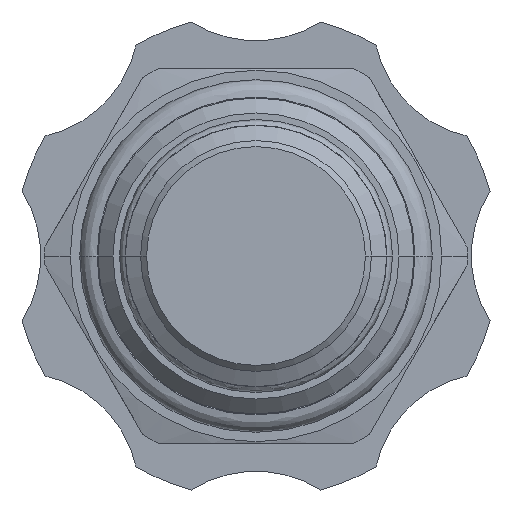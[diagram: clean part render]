
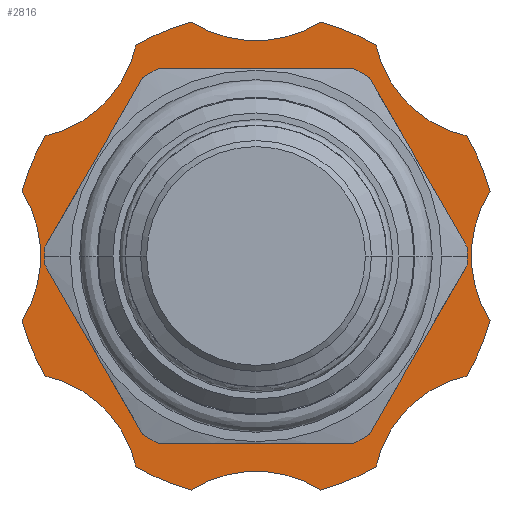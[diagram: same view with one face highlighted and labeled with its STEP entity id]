
A CAD part, front view. The second image highlights one B-rep face of the part: STEP entity #2816.
In plain terms, the highlighted planar face has unit normal (0, -1, 0).
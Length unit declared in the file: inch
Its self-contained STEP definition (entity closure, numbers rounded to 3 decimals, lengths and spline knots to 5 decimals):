
#95=CARTESIAN_POINT('',(0.,1.37633,0.));
#96=DIRECTION('',(0.,-1.,0.));
#97=DIRECTION('',(-0.964,0.,-0.266));
#98=AXIS2_PLACEMENT_3D('',#95,#96,#97);
#104=CARTESIAN_POINT('',(-0.79055,1.37633,-0.79055));
#105=DIRECTION('',(0.,1.,0.));
#106=DIRECTION('',(0.215,0.,0.977));
#107=AXIS2_PLACEMENT_3D('',#104,#105,#106);
#109=CARTESIAN_POINT('',(-1.118,1.37633,0.));
#110=DIRECTION('',(0.,1.,0.));
#111=DIRECTION('',(0.843,0.,0.538));
#112=AXIS2_PLACEMENT_3D('',#109,#110,#111);
#114=CARTESIAN_POINT('',(-0.79055,1.37633,0.79055));
#115=DIRECTION('',(0.,1.,0.));
#116=DIRECTION('',(0.977,0.,-0.215));
#117=AXIS2_PLACEMENT_3D('',#114,#115,#116);
#119=CARTESIAN_POINT('',(0.79055,1.37633,0.79055));
#120=DIRECTION('',(0.,1.,0.));
#121=DIRECTION('',(-0.215,0.,-0.977));
#122=AXIS2_PLACEMENT_3D('',#119,#120,#121);
#124=CARTESIAN_POINT('',(1.118,1.37633,0.));
#125=DIRECTION('',(0.,1.,0.));
#126=DIRECTION('',(-0.843,0.,-0.538));
#127=AXIS2_PLACEMENT_3D('',#124,#125,#126);
#129=CARTESIAN_POINT('',(0.79055,1.37633,-0.79055));
#130=DIRECTION('',(0.,1.,0.));
#131=DIRECTION('',(-0.977,0.,0.215));
#132=AXIS2_PLACEMENT_3D('',#129,#130,#131);
#134=CARTESIAN_POINT('',(0.,1.37633,-1.118));
#135=DIRECTION('',(0.,1.,0.));
#136=DIRECTION('',(-0.538,0.,0.843));
#137=AXIS2_PLACEMENT_3D('',#134,#135,#136);
#193=CARTESIAN_POINT('',(0.,1.37633,0.));
#194=DIRECTION('',(0.,-1.,0.));
#195=DIRECTION('',(0.266,0.,-0.964));
#196=AXIS2_PLACEMENT_3D('',#193,#194,#195);
#256=CARTESIAN_POINT('',(0.,1.37633,0.));
#257=DIRECTION('',(0.,-1.,0.));
#258=DIRECTION('',(0.87,0.,-0.494));
#259=AXIS2_PLACEMENT_3D('',#256,#257,#258);
#319=CARTESIAN_POINT('',(0.,1.37633,0.));
#320=DIRECTION('',(0.,-1.,0.));
#321=DIRECTION('',(0.964,0.,0.266));
#322=AXIS2_PLACEMENT_3D('',#319,#320,#321);
#382=CARTESIAN_POINT('',(0.,1.37633,0.));
#383=DIRECTION('',(0.,-1.,0.));
#384=DIRECTION('',(0.494,0.,0.87));
#385=AXIS2_PLACEMENT_3D('',#382,#383,#384);
#391=CARTESIAN_POINT('',(0.,1.37633,1.118));
#392=DIRECTION('',(0.,1.,0.));
#393=DIRECTION('',(0.538,0.,-0.843));
#394=AXIS2_PLACEMENT_3D('',#391,#392,#393);
#450=CARTESIAN_POINT('',(0.,1.37633,0.));
#451=DIRECTION('',(0.,-1.,0.));
#452=DIRECTION('',(-0.266,0.,0.964));
#453=AXIS2_PLACEMENT_3D('',#450,#451,#452);
#513=CARTESIAN_POINT('',(0.,1.37633,0.));
#514=DIRECTION('',(0.,-1.,0.));
#515=DIRECTION('',(-0.87,0.,0.494));
#516=AXIS2_PLACEMENT_3D('',#513,#514,#515);
#536=CARTESIAN_POINT('',(0.,1.37633,0.));
#537=DIRECTION('',(0.,-1.,0.));
#538=DIRECTION('',(-0.494,0.,-0.87));
#539=AXIS2_PLACEMENT_3D('',#536,#537,#538);
#549=CARTESIAN_POINT('',(0.,1.37633,0.));
#550=DIRECTION('',(0.,-1.,0.));
#551=DIRECTION('',(0.,0.,-1.));
#552=AXIS2_PLACEMENT_3D('',#549,#550,#551);
#578=CARTESIAN_POINT('',(0.,1.37633,0.));
#579=DIRECTION('',(0.,1.,0.));
#580=DIRECTION('',(0.,0.,-1.));
#581=AXIS2_PLACEMENT_3D('',#578,#579,#580);
#2537=CARTESIAN_POINT('',(0.,1.37633,-0.565));
#2538=CARTESIAN_POINT('',(0.,1.37633,0.565));
#2539=VERTEX_POINT('',#2537);
#2540=VERTEX_POINT('',#2538);
#2561=CARTESIAN_POINT('',(-0.70438,1.37633,-0.39994));
#2562=CARTESIAN_POINT('',(-0.39994,1.37633,-0.70438));
#2563=VERTEX_POINT('',#2561);
#2564=VERTEX_POINT('',#2562);
#2565=CARTESIAN_POINT('',(-0.78087,1.37633,0.21527));
#2566=CARTESIAN_POINT('',(-0.78087,1.37633,-0.21527));
#2567=VERTEX_POINT('',#2565);
#2568=VERTEX_POINT('',#2566);
#2569=CARTESIAN_POINT('',(-0.39994,1.37633,0.70438));
#2570=CARTESIAN_POINT('',(-0.70438,1.37633,0.39994));
#2571=VERTEX_POINT('',#2569);
#2572=VERTEX_POINT('',#2570);
#2573=CARTESIAN_POINT('',(-0.21527,1.37633,0.78087));
#2574=VERTEX_POINT('',#2573);
#2575=CARTESIAN_POINT('',(0.21527,1.37633,0.78087));
#2576=VERTEX_POINT('',#2575);
#2577=CARTESIAN_POINT('',(0.70438,1.37633,0.39994));
#2578=CARTESIAN_POINT('',(0.39994,1.37633,0.70438));
#2579=VERTEX_POINT('',#2577);
#2580=VERTEX_POINT('',#2578);
#2581=CARTESIAN_POINT('',(0.78087,1.37633,-0.21527));
#2582=CARTESIAN_POINT('',(0.78087,1.37633,0.21527));
#2583=VERTEX_POINT('',#2581);
#2584=VERTEX_POINT('',#2582);
#2585=CARTESIAN_POINT('',(0.39994,1.37633,-0.70438));
#2586=CARTESIAN_POINT('',(0.70438,1.37633,-0.39994));
#2587=VERTEX_POINT('',#2585);
#2588=VERTEX_POINT('',#2586);
#2589=CARTESIAN_POINT('',(-0.21527,1.37633,-0.78087));
#2590=VERTEX_POINT('',#2589);
#2591=CARTESIAN_POINT('',(0.21527,1.37633,-0.78087));
#2592=VERTEX_POINT('',#2591);
#2773=CARTESIAN_POINT('',(0.,1.37633,0.));
#2774=DIRECTION('',(0.,1.,0.));
#2775=DIRECTION('',(0.,0.,-1.));
#2776=AXIS2_PLACEMENT_3D('',#2773,#2774,#2775);
#2777=PLANE('',#2776);
#2779=ORIENTED_EDGE('',*,*,#2778,.F.);
#2781=ORIENTED_EDGE('',*,*,#2780,.F.);
#2783=ORIENTED_EDGE('',*,*,#2782,.F.);
#2784=ORIENTED_EDGE('',*,*,#2766,.F.);
#2785=ORIENTED_EDGE('',*,*,#2670,.F.);
#2787=ORIENTED_EDGE('',*,*,#2786,.F.);
#2789=ORIENTED_EDGE('',*,*,#2788,.F.);
#2791=ORIENTED_EDGE('',*,*,#2790,.F.);
#2793=ORIENTED_EDGE('',*,*,#2792,.F.);
#2795=ORIENTED_EDGE('',*,*,#2794,.F.);
#2797=ORIENTED_EDGE('',*,*,#2796,.F.);
#2799=ORIENTED_EDGE('',*,*,#2798,.F.);
#2801=ORIENTED_EDGE('',*,*,#2800,.F.);
#2803=ORIENTED_EDGE('',*,*,#2802,.F.);
#2805=ORIENTED_EDGE('',*,*,#2804,.F.);
#2807=ORIENTED_EDGE('',*,*,#2806,.F.);
#2808=EDGE_LOOP('',(#2779,#2781,#2783,#2784,#2785,#2787,#2789,#2791,#2793,#2795,
#2797,#2799,#2801,#2803,#2805,#2807));
#2809=FACE_OUTER_BOUND('',#2808,.F.);
#2811=ORIENTED_EDGE('',*,*,#2810,.T.);
#2813=ORIENTED_EDGE('',*,*,#2812,.F.);
#2814=EDGE_LOOP('',(#2811,#2813));
#2815=FACE_BOUND('',#2814,.F.);
#2816=ADVANCED_FACE('',(#2809,#2815),#2777,.F.);
#99=CIRCLE('',#98,0.81);
#108=CIRCLE('',#107,0.4);
#113=CIRCLE('',#112,0.4);
#118=CIRCLE('',#117,0.4);
#123=CIRCLE('',#122,0.4);
#128=CIRCLE('',#127,0.4);
#133=CIRCLE('',#132,0.4);
#138=CIRCLE('',#137,0.4);
#197=CIRCLE('',#196,0.81);
#260=CIRCLE('',#259,0.81);
#323=CIRCLE('',#322,0.81);
#386=CIRCLE('',#385,0.81);
#395=CIRCLE('',#394,0.4);
#454=CIRCLE('',#453,0.81);
#517=CIRCLE('',#516,0.81);
#540=CIRCLE('',#539,0.81);
#553=CIRCLE('',#552,0.565);
#582=CIRCLE('',#581,0.565);
#2670=EDGE_CURVE('',#2567,#2568,#113,.T.);
#2766=EDGE_CURVE('',#2568,#2563,#99,.T.);
#2778=EDGE_CURVE('',#2590,#2592,#138,.T.);
#2780=EDGE_CURVE('',#2564,#2590,#540,.T.);
#2782=EDGE_CURVE('',#2563,#2564,#108,.T.);
#2786=EDGE_CURVE('',#2572,#2567,#517,.T.);
#2788=EDGE_CURVE('',#2571,#2572,#118,.T.);
#2790=EDGE_CURVE('',#2574,#2571,#454,.T.);
#2792=EDGE_CURVE('',#2576,#2574,#395,.T.);
#2794=EDGE_CURVE('',#2580,#2576,#386,.T.);
#2796=EDGE_CURVE('',#2579,#2580,#123,.T.);
#2798=EDGE_CURVE('',#2584,#2579,#323,.T.);
#2800=EDGE_CURVE('',#2583,#2584,#128,.T.);
#2802=EDGE_CURVE('',#2588,#2583,#260,.T.);
#2804=EDGE_CURVE('',#2587,#2588,#133,.T.);
#2806=EDGE_CURVE('',#2592,#2587,#197,.T.);
#2810=EDGE_CURVE('',#2539,#2540,#553,.T.);
#2812=EDGE_CURVE('',#2539,#2540,#582,.T.);
